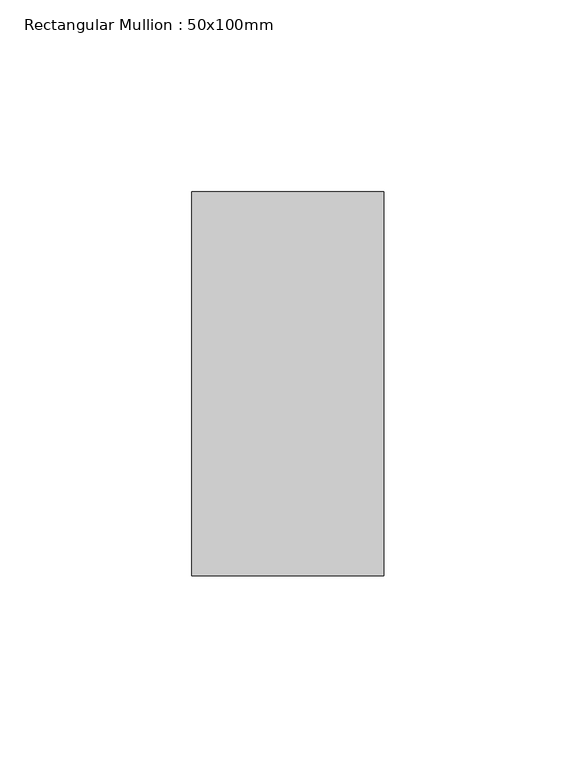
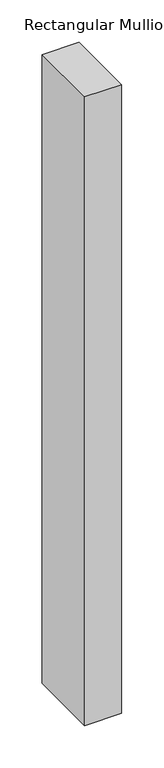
"""IFC4 building model written with IfcOpenShell, lengths in millimetres: member geometry, Rectangular Mullion : 50x100mm."""

import ifcopenshell
import ifcopenshell.guid

model = None  # the IFC model being written
_history = None  # IfcOwnerHistory: only IFC2X3 demands one
_inside = {}  # id of a spatial element -> (the spatial element, [elements in it])
_under = {}  # id of a project, library or spatial element -> (it, [spatial elements below it])
_declared = {}  # id of a project -> (the project, [libraries it declares])
_typed = {}  # id of a type object -> (the type object, [elements of that type])
_made_of = {}  # id of a material, layer set ... -> (it, [elements and type objects made of it])


def new_model(schema):
    """Start an empty IFC model of exactly this schema.

    Asked for "IFC4X3", IfcOpenShell would pick the latest addendum, in which some entities
    have other attributes; the version numbers below select the first issue.
    IFC2X3 requires an IfcOwnerHistory on every rooted entity: one is made here for all.
    """
    global model, _history
    if schema == "IFC4X3":
        model = ifcopenshell.file(schema_version=(4, 3, 0, 0))
    else:
        model = ifcopenshell.file(schema=schema)
    _inside.clear()
    _under.clear()
    _declared.clear()
    _typed.clear()
    _made_of.clear()
    _history = None
    if model.schema == "IFC2X3":
        org = make("IfcOrganization", Name="unknown")
        user = make(
            "IfcPersonAndOrganization",
            ThePerson=make("IfcPerson", FamilyName="unknown"),
            TheOrganization=org,
        )
        app = make(
            "IfcApplication",
            ApplicationDeveloper=org,
            Version="unknown",
            ApplicationFullName="unknown",
            ApplicationIdentifier="unknown",
        )
        _history = make(
            "IfcOwnerHistory",
            OwningUser=user,
            OwningApplication=app,
            ChangeAction="ADDED",
            CreationDate=0,
        )
    return model


def make(cls, **values):
    """One entity of the class cls with the attributes given. An attribute that is None is left unset."""
    return model.create_entity(
        cls, **{name: value for name, value in values.items() if value is not None}
    )


def rooted(cls, **values):
    """An entity with a GlobalId (a new one), such as an element, a storey or a relation."""
    return make(cls, GlobalId=ifcopenshell.guid.new(), OwnerHistory=_history, **values)


def si_unit(unit_type, name, prefix=None):
    """IfcSIUnit, for example si_unit("LENGTHUNIT", "METRE", prefix="MILLI")."""
    return make("IfcSIUnit", UnitType=unit_type, Prefix=prefix, Name=name)


def assignment(units):
    """IfcUnitAssignment: the units of a project."""
    return None if units is None else make("IfcUnitAssignment", Units=units)


def point(xyz):
    """IfcCartesianPoint."""
    return None if xyz is None else make("IfcCartesianPoint", Coordinates=xyz)


def direction(xyz):
    """IfcDirection."""
    return None if xyz is None else make("IfcDirection", DirectionRatios=xyz)


def frame(location, z_axis=None, x_axis=None):
    """IfcAxis2Placement3D, a coordinate frame: its origin and axes. An axis left out is left unset."""
    return make(
        "IfcAxis2Placement3D",
        Location=point(location),
        Axis=direction(z_axis),
        RefDirection=direction(x_axis),
    )


def origin():
    """The frame at (0, 0, 0) with its axes left unset."""
    return frame((0.0, 0.0, 0.0))


def place(relative_to, where):
    """IfcLocalPlacement: puts the frame where relative to a parent placement (None: the world)."""
    return make(
        "IfcLocalPlacement", PlacementRelTo=relative_to, RelativePlacement=where
    )


def context(
    kind, dimensions, precision=None, world=None, true_north=None, identifier=None
):
    """IfcGeometricRepresentationContext, for example the 3D "Model" context."""
    return make(
        "IfcGeometricRepresentationContext",
        ContextIdentifier=identifier,
        ContextType=kind,
        CoordinateSpaceDimension=dimensions,
        Precision=precision,
        WorldCoordinateSystem=world,
        TrueNorth=true_north,
    )


def project(units=None, contexts=None):
    """IfcProject with its units and contexts."""
    return rooted(
        "IfcProject",
        Name="project",
        RepresentationContexts=contexts,
        UnitsInContext=assignment(units),
    )


def spatial(cls, under=None, at=None, **own):
    """A site, building, storey or space (cls), placed at a placement, below another one or the project."""
    s = rooted(cls, ObjectPlacement=at, **own)
    if under is not None:
        _under.setdefault(under.id(), (under, []))[1].append(s)
    return s


def polyline(points):
    """IfcPolyline through the points."""
    return make("IfcPolyline", Points=[point(p) for p in points])


def outline(outer, holes=None, kind="AREA"):
    """IfcArbitraryClosedProfileDef: a profile drawn as a closed curve; with holes, ...WithVoids."""
    if holes is None:
        return make("IfcArbitraryClosedProfileDef", ProfileType=kind, OuterCurve=outer)
    return make(
        "IfcArbitraryProfileDefWithVoids",
        ProfileType=kind,
        OuterCurve=outer,
        InnerCurves=holes,
    )


def extrude(swept, where, along, depth):
    """IfcExtrudedAreaSolid: the profile swept, set in the frame where, extruded along a direction by depth."""
    return make(
        "IfcExtrudedAreaSolid",
        SweptArea=swept,
        Position=where,
        ExtrudedDirection=direction(along),
        Depth=depth,
    )


def shape(context_of_items, identifier, shape_type, items):
    """IfcShapeRepresentation: the items that make up one representation, for example the "Body"."""
    return make(
        "IfcShapeRepresentation",
        ContextOfItems=context_of_items,
        RepresentationIdentifier=identifier,
        RepresentationType=shape_type,
        Items=items,
    )


def source(mapping_origin, context_of_items, identifier, shape_type, items):
    """IfcRepresentationMap: a shape defined once, which mapped items show again and again."""
    return make(
        "IfcRepresentationMap",
        MappingOrigin=mapping_origin,
        MappedRepresentation=shape(context_of_items, identifier, shape_type, items),
    )


def transform(
    local_origin,
    x_axis=None,
    y_axis=None,
    z_axis=None,
    scale=None,
    scale2=None,
    scale3=None,
    uniform=True,
):
    """IfcCartesianTransformationOperator3D, or its non-uniform kind. x_axis, y_axis, z_axis: its Axis1, 2, 3."""
    if uniform:
        return make(
            "IfcCartesianTransformationOperator3D",
            Axis1=direction(x_axis),
            Axis2=direction(y_axis),
            LocalOrigin=point(local_origin),
            Scale=scale,
            Axis3=direction(z_axis),
        )
    return make(
        "IfcCartesianTransformationOperator3DnonUniform",
        Axis1=direction(x_axis),
        Axis2=direction(y_axis),
        LocalOrigin=point(local_origin),
        Scale=scale,
        Axis3=direction(z_axis),
        Scale2=scale2,
        Scale3=scale3,
    )


def mapped(mapping_source, mapping_target):
    """IfcMappedItem: shows the shape of a source again, moved by a transform."""
    return make(
        "IfcMappedItem", MappingSource=mapping_source, MappingTarget=mapping_target
    )


def made_of(thing, what):
    """Note that an element or type object is made of a material, layer set ...; save() writes the relation."""
    if what is not None:
        _made_of.setdefault(what.id(), (what, []))[1].append(thing)
    return thing


def element(
    cls,
    number,
    at=None,
    inside=None,
    cuts=None,
    type_object=None,
    material=None,
    context=None,
    identifier="Body",
    shape_type=None,
    held_by="IfcProductDefinitionShape",
    body=None,
    shapes=None,
    **own,
):
    """One element of the class cls, such as IfcWall. Its Tag is "e" and its number.

    at: its placement. inside: the storey or other place that contains it. cuts: it is an
    opening in that element (IfcRelVoidsElement). A single representation is given by context,
    identifier, shape_type and body (its items); several are given by shapes. held_by: the class
    of the entity that holds the representations. save() writes the other relations.
    """
    e = rooted(cls, Tag="e%d" % number, ObjectPlacement=at, **own)
    if body is not None:
        shapes = [shape(context, identifier, shape_type, body)]
    if shapes is not None:
        e.Representation = make(held_by, Representations=shapes)
    if inside is not None:
        _inside.setdefault(inside.id(), (inside, []))[1].append(e)
    if cuts is not None:
        rooted(
            "IfcRelVoidsElement", RelatingBuildingElement=cuts, RelatedOpeningElement=e
        )
    if type_object is not None:
        _typed.setdefault(type_object.id(), (type_object, []))[1].append(e)
    return made_of(e, material)


def aggregate(whole, parts):
    """IfcRelAggregates: a whole, such as a stair, and the parts it consists of."""
    return rooted("IfcRelAggregates", RelatingObject=whole, RelatedObjects=parts)


def save(model, path):
    """Write the relations noted so far, then the file.

    IfcRelAggregates (storeys below a building ...), IfcRelContainedInSpatialStructure (elements
    in a storey), IfcRelDefinesByType, IfcRelAssociatesMaterial and IfcRelDeclares: one each for
    every whole, place, type object, material and project.
    """
    for whole, parts in _under.values():
        aggregate(whole, parts)
    for where, things in _inside.values():
        rooted(
            "IfcRelContainedInSpatialStructure",
            RelatedElements=things,
            RelatingStructure=where,
        )
    for kind, things in _typed.values():
        rooted("IfcRelDefinesByType", RelatedObjects=things, RelatingType=kind)
    for what, things in _made_of.values():
        rooted("IfcRelAssociatesMaterial", RelatedObjects=things, RelatingMaterial=what)
    for by, libraries in _declared.values():
        rooted("IfcRelDeclares", RelatingContext=by, RelatedDefinitions=libraries)
    model.write(path)


def rectangular_mullion_50x100mm_d8cfd074(model_context):
    return source(origin(), model_context, "Body", "SweptSolid", [
        extrude(outline(polyline([(0.0, 50.0), (0.0, -50.0), (-50.0, -50.0), (-50.0, 50.0), (0.0, 50.0)])), frame((0.0, 0.0, -903.0), z_axis=(0.0, 0.0, 1.0), x_axis=(1.0, 0.0, 0.0)), (0.0, 0.0, 1.0), 903.0),
    ])


if __name__ == "__main__":
    model = new_model("IFC4")
    model_context = context("Model", 3, world=origin())
    ifc_project = project(units=[si_unit("LENGTHUNIT", "METRE", prefix="MILLI")], contexts=[model_context])
    site = spatial("IfcSite", under=ifc_project)
    building = spatial("IfcBuilding", under=site)
    placement = place(None, origin())
    rectangular_mullion_50x100mm_shape = rectangular_mullion_50x100mm_d8cfd074(model_context)
    element("IfcMember", 1, ObjectType="Rectangular Mullion : 50x100mm", at=placement, inside=building, context=model_context, shape_type="MappedRepresentation", body=[
        mapped(rectangular_mullion_50x100mm_shape, transform((0.0, 0.0, 0.0), x_axis=(1.0, 0.0, 0.0), y_axis=(0.0, 1.0, 0.0), z_axis=(0.0, 0.0, 1.0))),
    ])
    save(model, "model.ifc")
